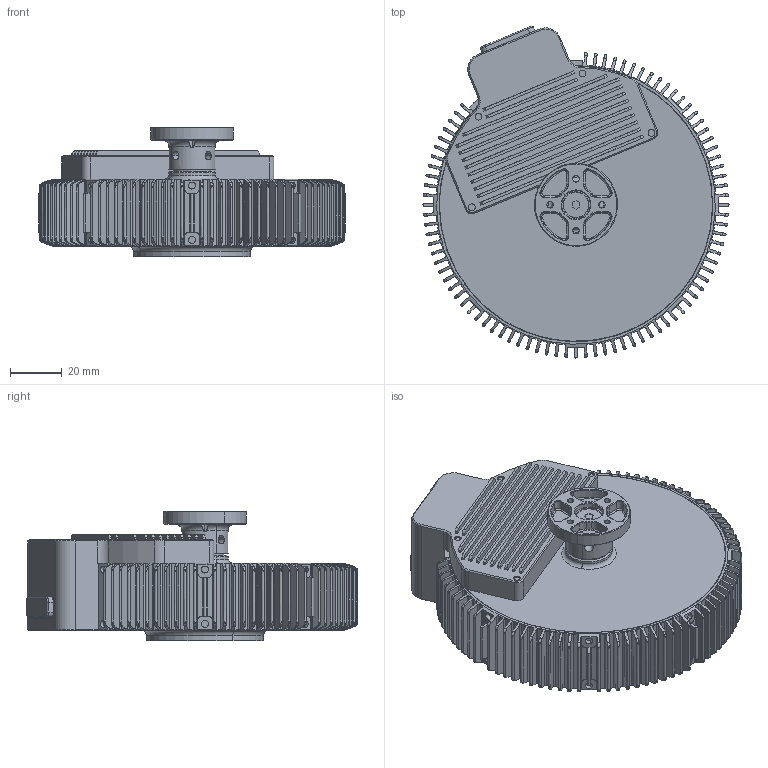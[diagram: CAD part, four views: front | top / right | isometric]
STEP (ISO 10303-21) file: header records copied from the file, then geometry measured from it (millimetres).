
FILE_DESCRIPTION (( 'STEP AP203' ), '1' );
FILE_NAME ('N8S-E-ZT.STEP', '2026-04-03T08:32:22', ( '' ), ( '' ), 'SwSTEP 2.0', 'SolidWorks 2020', '' );
FILE_SCHEMA (( 'CONFIG_CONTROL_DESIGN' ));
Length unit declared in the file: millimetre
Products named in the file (1): N8S-E-ZT
Bounding box: 118 x 128 x 50 mm (x, y, z)
Volume: 306088.2 mm3; surface area: 59213 mm2
Topology: 1 solids, 5 shells, 1434 faces, 4034 edges, 2666 vertices
Faces by surface type: cylinder 637, plane 508, torus 201, cone 88
Entity records: 61948 total; most frequent: CARTESIAN_POINT 26801, ORIENTED_EDGE 8060, DIRECTION 6402, EDGE_CURVE 4030, VERTEX_POINT 2666, AXIS2_PLACEMENT_3D 2444, EDGE_LOOP 1522, LINE 1514
